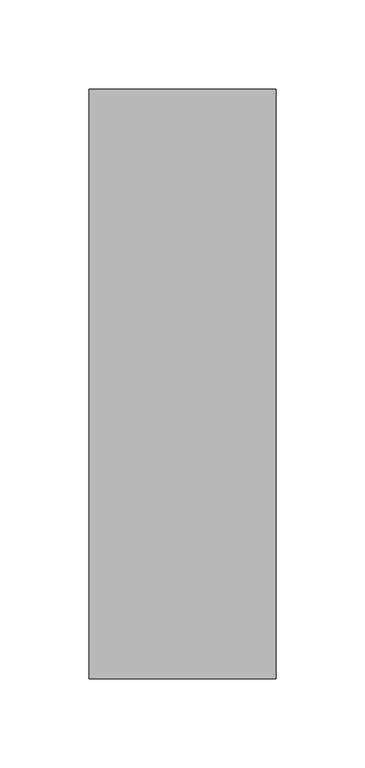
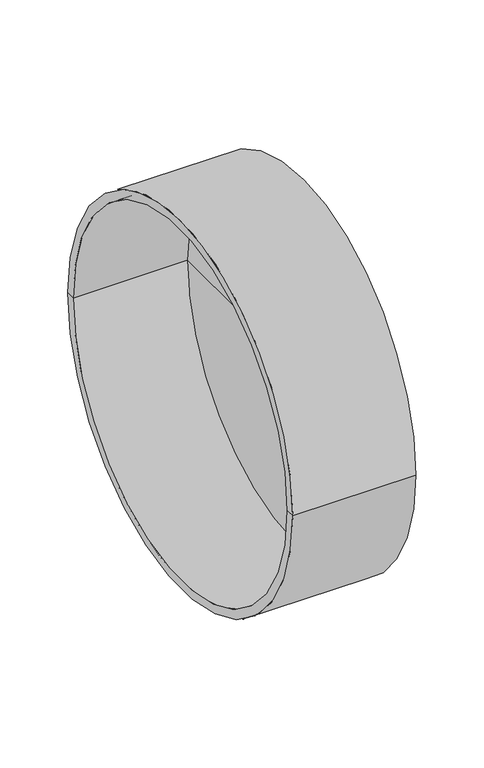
"""IFC4 building model written with IfcOpenShell, lengths in millimetres: pipe fitting geometry, pf_KGK_vicko : pf_KGK_vicko."""

from ifc_helpers import new_model, si_unit, frame, origin, place, context, project, spatial, polyline, circle_curve, source, transform, mapped, element, save
from ifc_brep_helpers import plane_surface, cylinder_surface, revolved_surface, advanced_brep


def pipe_fitting_bbba7b96(model_context):
    return source(origin(), model_context, "Body", "AdvancedBrep", [
        advanced_brep(
        [(-97.0, -165.2, 0.0), (-97.0, 165.2, 0.0), (7.7, 165.2, 0.0), (7.7, -165.2, 0.0), (-97.0, -157.5, 0.0), (-97.0, 157.5, 0.0), (0.0, -157.5, 0.0), (0.0, 157.5, 0.0), (0.0, 0.0, 0.0), (7.7, 0.0, 0.0)],
        [
            (0, 1, circle_curve(frame((-97.0, 0.0, 0.0), z_axis=(1.0, 0.0, 0.0), x_axis=(0.0, 1.0, 0.0)), 165.2)),
            (1, 2),
            (2, 3, circle_curve(frame((7.7, 0.0, 0.0), z_axis=(-1.0, 0.0, 0.0), x_axis=(0.0, 1.0, 0.0)), 165.2)),
            (3, 0),
            (1, 0, circle_curve(frame((-97.0, 0.0, 0.0), z_axis=(1.0, 0.0, 0.0), x_axis=(0.0, 1.0, 0.0)), 165.2)),
            (3, 2, circle_curve(frame((7.7, 0.0, 0.0), z_axis=(-1.0, 0.0, 0.0), x_axis=(0.0, 1.0, 0.0)), 165.2)),
            (4, 5, circle_curve(frame((-97.0, 0.0, 0.0), z_axis=(1.0, 0.0, 0.0), x_axis=(0.0, 1.0, 0.0)), 157.5)),
            (5, 1),
            (0, 4),
            (5, 4, circle_curve(frame((-97.0, 0.0, 0.0), z_axis=(1.0, 0.0, 0.0), x_axis=(0.0, 1.0, 0.0)), 157.5)),
            (6, 7, circle_curve(frame((0.0, 0.0, 0.0), z_axis=(1.0, 0.0, 0.0), x_axis=(0.0, 1.0, 0.0)), 157.5)),
            (7, 5),
            (4, 6),
            (7, 6, circle_curve(frame((0.0, 0.0, 0.0), z_axis=(1.0, 0.0, 0.0), x_axis=(0.0, 1.0, 0.0)), 157.5)),
            (8, 7),
            (6, 8),
            (2, 9),
            (9, 3),
        ],
        [
            cylinder_surface(frame((-88.0241529, 0.0, 0.0), z_axis=(-1.0, 0.0, 0.0), x_axis=(0.0, 1.0, 0.0)), 165.2),
            plane_surface(frame((-97.0, 0.0, 0.0), z_axis=(-1.0, 0.0, 0.0), x_axis=(0.0, 1.0, 0.0))),
            revolved_surface(polyline([(-97.0, 157.5, 0.0), (0.0, 157.5, 0.0)]), (-88.0241529, 0.0, 0.0), (-1.0, 0.0, 0.0)),
            plane_surface(frame((0.0, 0.0, 0.0), z_axis=(-1.0, 0.0, 0.0), x_axis=(0.0, 1.0, 0.0))),
            plane_surface(frame((7.7, 0.0, 0.0), z_axis=(1.0, 0.0, 0.0), x_axis=(0.0, 1.0, 0.0))),
        ],
        [
            (0, [[1, 2, 3, 4]]),
            (0, [[5, -4, 6, -2]]),
            (1, [[7, 8, -1, 9]]),
            (1, [[10, -9, -5, -8]]),
            (2, [[11, 12, -7, 13]]),
            (2, [[14, -13, -10, -12]]),
            (3, [[15, -11, 16]]),
            (3, [[-16, -14, -15]]),
            (4, [[-3, 17, 18]]),
            (4, [[-6, -18, -17]]),
        ],
    ),
    ])


if __name__ == "__main__":
    model = new_model("IFC4")
    model_context = context("Model", 3, world=origin())
    ifc_project = project(units=[si_unit("LENGTHUNIT", "METRE", prefix="MILLI")], contexts=[model_context])
    site = spatial("IfcSite", under=ifc_project)
    building = spatial("IfcBuilding", under=site)
    placement = place(None, origin())
    pipe_fitting_shape = pipe_fitting_bbba7b96(model_context)
    element("IfcPipeFitting", 1, ObjectType="pf_KGK_vicko : pf_KGK_vicko", at=placement, inside=building, context=model_context, shape_type="MappedRepresentation", body=[
        mapped(pipe_fitting_shape, transform((0.0, 0.0, 0.0), x_axis=(1.0, 0.0, 0.0), y_axis=(0.0, 1.0, 0.0), z_axis=(0.0, 0.0, 1.0))),
    ])
    save(model, "model.ifc")
